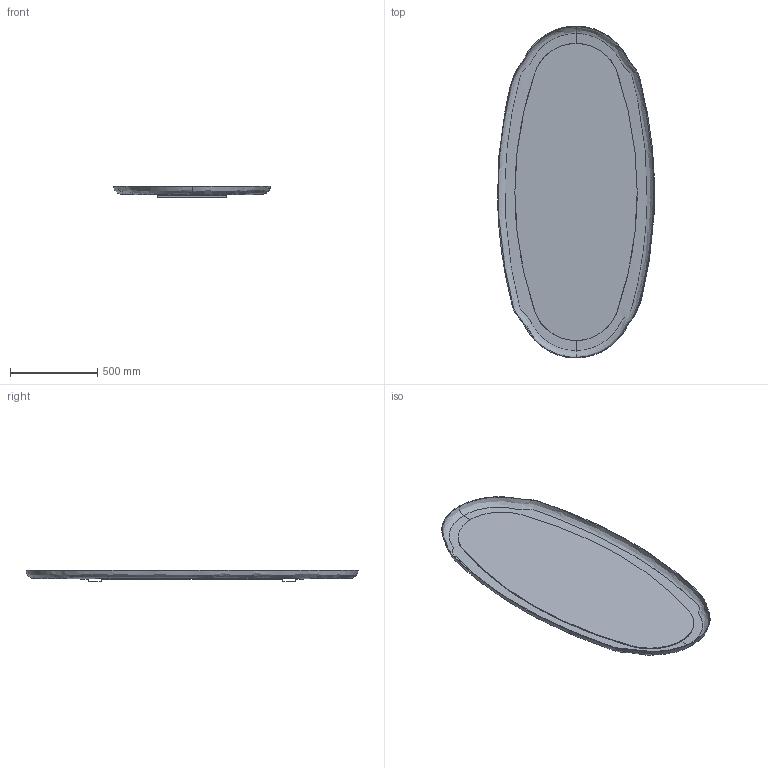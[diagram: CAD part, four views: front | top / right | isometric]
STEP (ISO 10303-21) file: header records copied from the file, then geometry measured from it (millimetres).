
FILE_DESCRIPTION (( 'STEP AP203' ), '1' );
FILE_NAME ('MAT02_Matisse_90x190.STEP', '2024-08-02T09:06:08', ( '' ), ( '' ), 'SwSTEP 2.0', 'SolidWorks 2022', '' );
FILE_SCHEMA (( 'CONFIG_CONTROL_DESIGN' ));
Length unit declared in the file: millimetre
Products named in the file (3): MAT02_A-00-SPECCHIO MATISSE 90x190_SOLO SPECCHIO; MAT02_B-00-LAMIERA ANCORAGGIO PIEGATA; MAT02_Matisse_90x190
Assembly tree (2 placements, depth 2):
  MAT02_Matisse_90x190
    MAT02_A-00-SPECCHIO MATISSE 90x190_SOLO SPECCHIO
    MAT02_B-00-LAMIERA ANCORAGGIO PIEGATA
Bounding box: 898.69 x 1900 x 66.5 mm (x, y, z)
Volume: 10709113.7 mm3; surface area: 6065238.7 mm2
Topology: 3 solids, 3 shells, 153 faces, 361 edges, 207 vertices
Faces by surface type: plane 99, cylinder 46, bspline 8
Entity records: 11414 total; most frequent: CARTESIAN_POINT 7623, DIRECTION 724, ORIENTED_EDGE 722, EDGE_CURVE 361, LINE 250, VECTOR 250, AXIS2_PLACEMENT_3D 237, VERTEX_POINT 207
